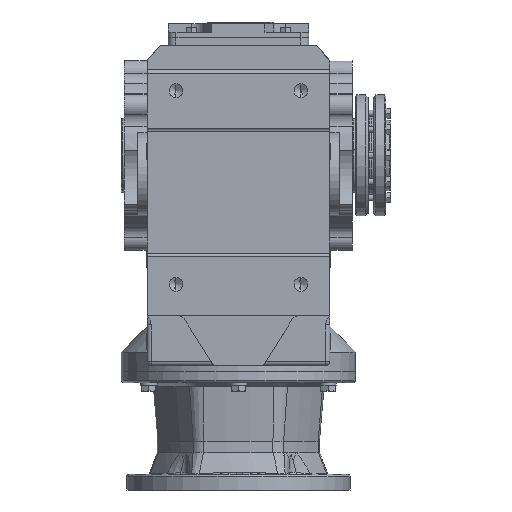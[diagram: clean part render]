
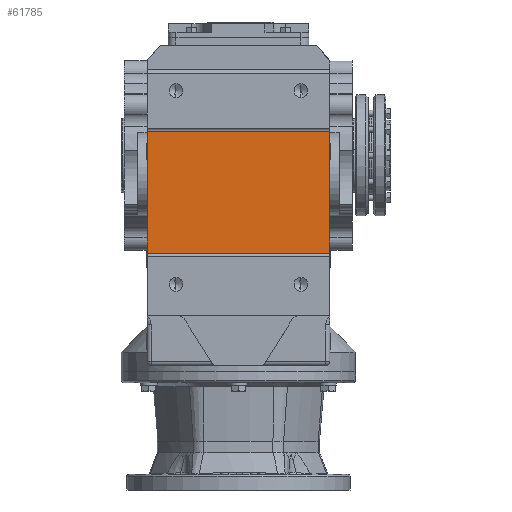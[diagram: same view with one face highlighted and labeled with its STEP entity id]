
A CAD part, front view. The second image highlights one B-rep face of the part: STEP entity #61785.
In plain terms, the highlighted planar face has unit normal (0, -1, 0).
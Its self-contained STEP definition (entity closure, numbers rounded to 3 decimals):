
#8380 = CARTESIAN_POINT ( 'NONE',  ( -117., -260., 31. ) ) ;
#8390 = CARTESIAN_POINT ( 'NONE',  ( 117., -260., 31. ) ) ;
#8392 = CARTESIAN_POINT ( 'NONE',  ( -117., -260., -125. ) ) ;
#8393 = CARTESIAN_POINT ( 'NONE',  ( 117., -260., -125. ) ) ;
#9797 = CARTESIAN_POINT ( 'NONE',  ( -145., -260., 31. ) ) ;
#9802 = PLANE ( 'NONE',  #50422 ) ;
#9805 = DIRECTION ( 'NONE',  ( 0., -1., 0. ) ) ;
#9806 = DIRECTION ( 'NONE',  ( 0., 0., -1. ) ) ;
#17210 = LINE ( 'NONE', #64114, #17214 ) ;
#17212 = LINE ( 'NONE', #64123, #17228 ) ;
#17214 = VECTOR ( 'NONE', #64108, 1000. ) ;
#17216 = LINE ( 'NONE', #64121, #17220 ) ;
#17218 = LINE ( 'NONE', #64127, #17224 ) ;
#17220 = VECTOR ( 'NONE', #64117, 1000. ) ;
#17224 = VECTOR ( 'NONE', #64129, 1000. ) ;
#17228 = VECTOR ( 'NONE', #64130, 1000. ) ;
#20274 = ORIENTED_EDGE ( 'NONE', *, *, #54157, .F. ) ;
#20275 = ORIENTED_EDGE ( 'NONE', *, *, #54159, .F. ) ;
#20276 = ORIENTED_EDGE ( 'NONE', *, *, #54160, .T. ) ;
#20277 = ORIENTED_EDGE ( 'NONE', *, *, #54161, .T. ) ;
#38067 = EDGE_LOOP ( 'NONE', ( #20274, #20275, #20276, #20277 ) ) ;
#43248 = FACE_OUTER_BOUND ( 'NONE', #38067, .T. ) ;
#50422 = AXIS2_PLACEMENT_3D ( 'NONE', #9797, #9805, #9806 ) ;
#51956 = VERTEX_POINT ( 'NONE', #8380 ) ;
#51978 = VERTEX_POINT ( 'NONE', #8392 ) ;
#51988 = VERTEX_POINT ( 'NONE', #8390 ) ;
#51993 = VERTEX_POINT ( 'NONE', #8393 ) ;
#54157 = EDGE_CURVE ( 'NONE', #51956, #51988, #17210, .T. ) ;
#54159 = EDGE_CURVE ( 'NONE', #51978, #51956, #17216, .T. ) ;
#54160 = EDGE_CURVE ( 'NONE', #51978, #51993, #17218, .T. ) ;
#54161 = EDGE_CURVE ( 'NONE', #51993, #51988, #17212, .T. ) ;
#61785 = ADVANCED_FACE ( 'NONE', ( #43248 ), #9802, .T. ) ;
#64108 = DIRECTION ( 'NONE',  ( 1., 0., 0. ) ) ;
#64114 = CARTESIAN_POINT ( 'NONE',  ( -145., -260., 31. ) ) ;
#64117 = DIRECTION ( 'NONE',  ( 0., 0., 1. ) ) ;
#64121 = CARTESIAN_POINT ( 'NONE',  ( -117., -260., 31. ) ) ;
#64123 = CARTESIAN_POINT ( 'NONE',  ( 117., -260., 31. ) ) ;
#64127 = CARTESIAN_POINT ( 'NONE',  ( -145., -260., -125. ) ) ;
#64129 = DIRECTION ( 'NONE',  ( 1., 0., 0. ) ) ;
#64130 = DIRECTION ( 'NONE',  ( 0., 0., 1. ) ) ;
